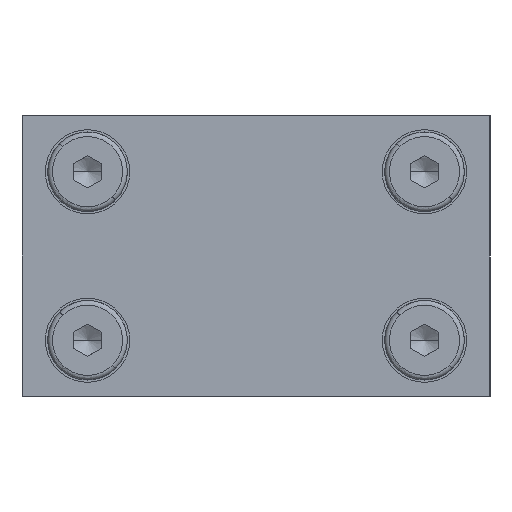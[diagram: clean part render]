
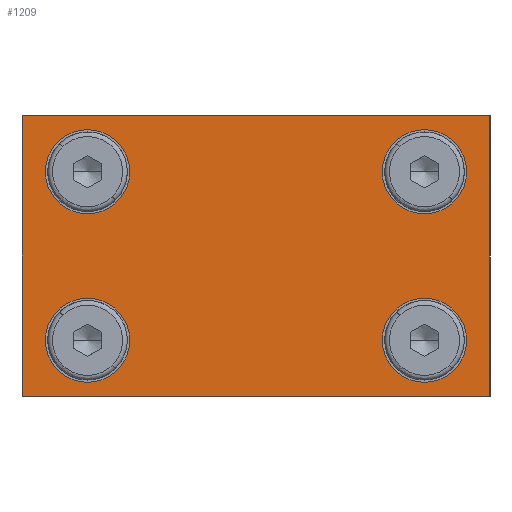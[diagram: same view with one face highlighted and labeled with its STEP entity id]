
A CAD part, left-side view. The second image highlights one B-rep face of the part: STEP entity #1209.
In plain terms, the highlighted planar face has unit normal (-1, 0, 0).
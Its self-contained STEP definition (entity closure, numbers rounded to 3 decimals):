
#130 = EDGE_LOOP ( 'NONE', ( #6148, #6149, #6150, #6151 ) ) ;
#131 = EDGE_LOOP ( 'NONE', ( #6146, #6147 ) ) ;
#132 = EDGE_LOOP ( 'NONE', ( #6144, #6145 ) ) ;
#133 = EDGE_LOOP ( 'NONE', ( #6142, #6143 ) ) ;
#135 = EDGE_LOOP ( 'NONE', ( #6140, #6141 ) ) ;
#502 = VERTEX_POINT ( 'NONE', #4943 ) ;
#503 = VERTEX_POINT ( 'NONE', #4944 ) ;
#509 = VERTEX_POINT ( 'NONE', #4950 ) ;
#512 = VERTEX_POINT ( 'NONE', #4953 ) ;
#518 = VERTEX_POINT ( 'NONE', #4959 ) ;
#520 = VERTEX_POINT ( 'NONE', #4961 ) ;
#526 = VERTEX_POINT ( 'NONE', #4967 ) ;
#527 = VERTEX_POINT ( 'NONE', #4968 ) ;
#676 = VERTEX_POINT ( 'NONE', #5116 ) ;
#677 = VERTEX_POINT ( 'NONE', #5117 ) ;
#973 = VERTEX_POINT ( 'NONE', #5410 ) ;
#974 = VERTEX_POINT ( 'NONE', #5411 ) ;
#1209 = ADVANCED_FACE ( 'NONE', ( #10493, #10491, #10497, #10499, #10489 ), #9513, .T. ) ;
#1615 = EDGE_CURVE ( 'NONE', #503, #502, #11118, .T. ) ;
#1619 = EDGE_CURVE ( 'NONE', #512, #509, #11121, .T. ) ;
#1624 = EDGE_CURVE ( 'NONE', #520, #518, #11130, .T. ) ;
#1628 = EDGE_CURVE ( 'NONE', #527, #526, #11136, .T. ) ;
#1995 = EDGE_CURVE ( 'NONE', #526, #527, #13101, .T. ) ;
#2004 = EDGE_CURVE ( 'NONE', #518, #520, #13113, .T. ) ;
#2005 = EDGE_CURVE ( 'NONE', #509, #512, #13115, .T. ) ;
#2006 = EDGE_CURVE ( 'NONE', #502, #503, #13117, .T. ) ;
#2008 = EDGE_CURVE ( 'NONE', #677, #676, #13118, .T. ) ;
#2011 = EDGE_CURVE ( 'NONE', #676, #973, #13116, .T. ) ;
#2014 = EDGE_CURVE ( 'NONE', #973, #974, #13104, .T. ) ;
#2016 = EDGE_CURVE ( 'NONE', #974, #677, #13134, .T. ) ;
#4943 = CARTESIAN_POINT ( 'NONE',  ( -53.5, -13.5, 24. ) ) ;
#4944 = CARTESIAN_POINT ( 'NONE',  ( -53.5, -22.5, 24. ) ) ;
#4950 = CARTESIAN_POINT ( 'NONE',  ( -53.5, -13.5, 6. ) ) ;
#4953 = CARTESIAN_POINT ( 'NONE',  ( -53.5, -22.5, 6. ) ) ;
#4959 = CARTESIAN_POINT ( 'NONE',  ( -53.5, 22.5, 24. ) ) ;
#4961 = CARTESIAN_POINT ( 'NONE',  ( -53.5, 13.5, 24. ) ) ;
#4967 = CARTESIAN_POINT ( 'NONE',  ( -53.5, 22.5, 6. ) ) ;
#4968 = CARTESIAN_POINT ( 'NONE',  ( -53.5, 13.5, 6. ) ) ;
#5116 = CARTESIAN_POINT ( 'NONE',  ( -53.5, -25., 30. ) ) ;
#5117 = CARTESIAN_POINT ( 'NONE',  ( -53.5, 25., 30. ) ) ;
#5410 = CARTESIAN_POINT ( 'NONE',  ( -53.5, -25., 0. ) ) ;
#5411 = CARTESIAN_POINT ( 'NONE',  ( -53.5, 25., 0. ) ) ;
#6140 = ORIENTED_EDGE ( 'NONE', *, *, #1628, .T. ) ;
#6141 = ORIENTED_EDGE ( 'NONE', *, *, #1995, .T. ) ;
#6142 = ORIENTED_EDGE ( 'NONE', *, *, #1624, .T. ) ;
#6143 = ORIENTED_EDGE ( 'NONE', *, *, #2004, .T. ) ;
#6144 = ORIENTED_EDGE ( 'NONE', *, *, #1619, .T. ) ;
#6145 = ORIENTED_EDGE ( 'NONE', *, *, #2005, .T. ) ;
#6146 = ORIENTED_EDGE ( 'NONE', *, *, #1615, .T. ) ;
#6147 = ORIENTED_EDGE ( 'NONE', *, *, #2006, .T. ) ;
#6148 = ORIENTED_EDGE ( 'NONE', *, *, #2008, .F. ) ;
#6149 = ORIENTED_EDGE ( 'NONE', *, *, #2016, .F. ) ;
#6150 = ORIENTED_EDGE ( 'NONE', *, *, #2014, .F. ) ;
#6151 = ORIENTED_EDGE ( 'NONE', *, *, #2011, .F. ) ;
#8396 = AXIS2_PLACEMENT_3D ( 'NONE', #9514, #9519, #9520 ) ;
#8927 = AXIS2_PLACEMENT_3D ( 'NONE', #12138, #12139, #12140 ) ;
#8928 = AXIS2_PLACEMENT_3D ( 'NONE', #12148, #12149, #12150 ) ;
#8930 = AXIS2_PLACEMENT_3D ( 'NONE', #12173, #12174, #12175 ) ;
#8935 = AXIS2_PLACEMENT_3D ( 'NONE', #12158, #12164, #12165 ) ;
#8951 = AXIS2_PLACEMENT_3D ( 'NONE', #14242, #14249, #14250 ) ;
#8961 = AXIS2_PLACEMENT_3D ( 'NONE', #14274, #14276, #14277 ) ;
#8964 = AXIS2_PLACEMENT_3D ( 'NONE', #14271, #14279, #14280 ) ;
#8965 = AXIS2_PLACEMENT_3D ( 'NONE', #14275, #14281, #14282 ) ;
#9513 = PLANE ( 'NONE',  #8396 ) ;
#9514 = CARTESIAN_POINT ( 'NONE',  ( -53.5, 0., 15. ) ) ;
#9519 = DIRECTION ( 'NONE',  ( -1., 0., 0. ) ) ;
#9520 = DIRECTION ( 'NONE',  ( 0., 0.707, 0.707 ) ) ;
#10489 = FACE_OUTER_BOUND ( 'NONE', #130, .T. ) ;
#10491 = FACE_BOUND ( 'NONE', #133, .T. ) ;
#10493 = FACE_BOUND ( 'NONE', #135, .T. ) ;
#10497 = FACE_BOUND ( 'NONE', #132, .T. ) ;
#10499 = FACE_BOUND ( 'NONE', #131, .T. ) ;
#11118 = CIRCLE ( 'NONE', #8927, 4.5 ) ;
#11121 = CIRCLE ( 'NONE', #8928, 4.5 ) ;
#11130 = CIRCLE ( 'NONE', #8935, 4.5 ) ;
#11136 = CIRCLE ( 'NONE', #8930, 4.5 ) ;
#12138 = CARTESIAN_POINT ( 'NONE',  ( -53.5, -18., 24. ) ) ;
#12139 = DIRECTION ( 'NONE',  ( 1., 0., 0. ) ) ;
#12140 = DIRECTION ( 'NONE',  ( 0., -1., 0. ) ) ;
#12148 = CARTESIAN_POINT ( 'NONE',  ( -53.5, -18., 6. ) ) ;
#12149 = DIRECTION ( 'NONE',  ( 1., 0., 0. ) ) ;
#12150 = DIRECTION ( 'NONE',  ( 0., -1., 0. ) ) ;
#12158 = CARTESIAN_POINT ( 'NONE',  ( -53.5, 18., 24. ) ) ;
#12164 = DIRECTION ( 'NONE',  ( 1., 0., 0. ) ) ;
#12165 = DIRECTION ( 'NONE',  ( 0., -1., 0. ) ) ;
#12173 = CARTESIAN_POINT ( 'NONE',  ( -53.5, 18., 6. ) ) ;
#12174 = DIRECTION ( 'NONE',  ( 1., 0., 0. ) ) ;
#12175 = DIRECTION ( 'NONE',  ( 0., -1., 0. ) ) ;
#13101 = CIRCLE ( 'NONE', #8951, 4.5 ) ;
#13104 = LINE ( 'NONE', #14291, #13130 ) ;
#13113 = CIRCLE ( 'NONE', #8961, 4.5 ) ;
#13115 = CIRCLE ( 'NONE', #8964, 4.5 ) ;
#13116 = LINE ( 'NONE', #14278, #13124 ) ;
#13117 = CIRCLE ( 'NONE', #8965, 4.5 ) ;
#13118 = LINE ( 'NONE', #14285, #13119 ) ;
#13119 = VECTOR ( 'NONE', #14286, 1000. ) ;
#13124 = VECTOR ( 'NONE', #14292, 1000. ) ;
#13130 = VECTOR ( 'NONE', #14299, 1000. ) ;
#13134 = LINE ( 'NONE', #14302, #13135 ) ;
#13135 = VECTOR ( 'NONE', #14303, 1000. ) ;
#14242 = CARTESIAN_POINT ( 'NONE',  ( -53.5, 18., 6. ) ) ;
#14249 = DIRECTION ( 'NONE',  ( 1., 0., 0. ) ) ;
#14250 = DIRECTION ( 'NONE',  ( 0., -1., 0. ) ) ;
#14271 = CARTESIAN_POINT ( 'NONE',  ( -53.5, -18., 6. ) ) ;
#14274 = CARTESIAN_POINT ( 'NONE',  ( -53.5, 18., 24. ) ) ;
#14275 = CARTESIAN_POINT ( 'NONE',  ( -53.5, -18., 24. ) ) ;
#14276 = DIRECTION ( 'NONE',  ( 1., 0., 0. ) ) ;
#14277 = DIRECTION ( 'NONE',  ( 0., -1., 0. ) ) ;
#14278 = CARTESIAN_POINT ( 'NONE',  ( -53.5, -25., 0. ) ) ;
#14279 = DIRECTION ( 'NONE',  ( 1., 0., 0. ) ) ;
#14280 = DIRECTION ( 'NONE',  ( 0., -1., 0. ) ) ;
#14281 = DIRECTION ( 'NONE',  ( 1., 0., 0. ) ) ;
#14282 = DIRECTION ( 'NONE',  ( 0., -1., 0. ) ) ;
#14285 = CARTESIAN_POINT ( 'NONE',  ( -53.5, -25., 30. ) ) ;
#14286 = DIRECTION ( 'NONE',  ( 0., -1., 0. ) ) ;
#14291 = CARTESIAN_POINT ( 'NONE',  ( -53.5, 25., 0. ) ) ;
#14292 = DIRECTION ( 'NONE',  ( 0., 0., -1. ) ) ;
#14299 = DIRECTION ( 'NONE',  ( 0., 1., 0. ) ) ;
#14302 = CARTESIAN_POINT ( 'NONE',  ( -53.5, 25., 30. ) ) ;
#14303 = DIRECTION ( 'NONE',  ( 0., 0., 1. ) ) ;
